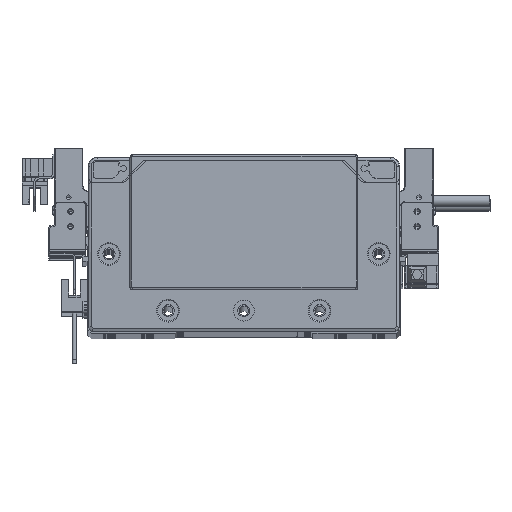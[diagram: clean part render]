
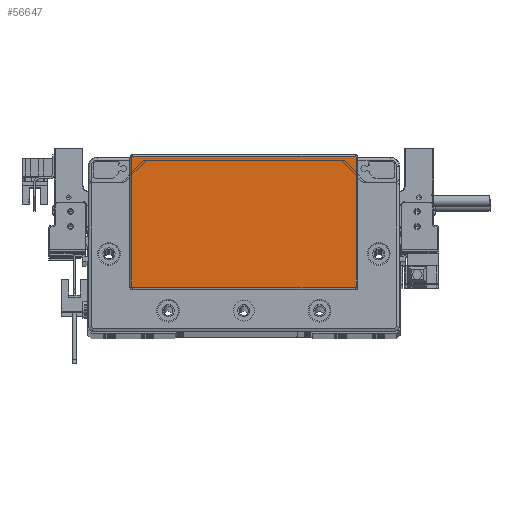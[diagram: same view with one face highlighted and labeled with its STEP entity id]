
A CAD part, top view. The second image highlights one B-rep face of the part: STEP entity #56647.
In plain terms, the highlighted planar face has unit normal (0, 0, 1) as drawn and (0, 0, -1) by its records, which use the part's own axes.
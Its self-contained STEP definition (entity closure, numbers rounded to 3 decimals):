
#776 = DIRECTION ( 'NONE',  ( 0., -1., 0. ) ) ;
#1093 = VERTEX_POINT ( 'NONE', #9725 ) ;
#1941 = EDGE_CURVE ( 'NONE', #14049, #1093, #17445, .T. ) ;
#2546 = ORIENTED_EDGE ( 'NONE', *, *, #30444, .T. ) ;
#7724 = ORIENTED_EDGE ( 'NONE', *, *, #41080, .T. ) ;
#8181 = ORIENTED_EDGE ( 'NONE', *, *, #101965, .T. ) ;
#9725 = CARTESIAN_POINT ( 'NONE',  ( 58.75, -23.8, -2. ) ) ;
#10487 = LINE ( 'NONE', #79188, #74043 ) ;
#10728 = CARTESIAN_POINT ( 'NONE',  ( 59.25, -23.3, -2. ) ) ;
#11864 = DIRECTION ( 'NONE',  ( -1., 0., 0. ) ) ;
#13423 = AXIS2_PLACEMENT_3D ( 'NONE', #23816, #58687, #70129 ) ;
#14049 = VERTEX_POINT ( 'NONE', #10728 ) ;
#17445 = CIRCLE ( 'NONE', #21120, 0.5 ) ;
#17501 = VECTOR ( 'NONE', #11864, 1000. ) ;
#19542 = AXIS2_PLACEMENT_3D ( 'NONE', #48280, #32289, #100424 ) ;
#19639 = DIRECTION ( 'NONE',  ( -1., 0., 0. ) ) ;
#21120 = AXIS2_PLACEMENT_3D ( 'NONE', #83059, #30434, #29880 ) ;
#21761 = VECTOR ( 'NONE', #81898, 1000. ) ;
#23727 = EDGE_CURVE ( 'NONE', #93894, #100034, #71923, .T. ) ;
#23816 = CARTESIAN_POINT ( 'NONE',  ( 58.75, 45.3, -2. ) ) ;
#27050 = DIRECTION ( 'NONE',  ( -1., 0., 0. ) ) ;
#27915 = LINE ( 'NONE', #65073, #17501 ) ;
#29880 = DIRECTION ( 'NONE',  ( -1., 0., 0. ) ) ;
#30434 = DIRECTION ( 'NONE',  ( 0., 0., -1. ) ) ;
#30444 = EDGE_CURVE ( 'NONE', #110589, #88194, #80765, .T. ) ;
#32289 = DIRECTION ( 'NONE',  ( 0., 0., -1. ) ) ;
#32570 = CARTESIAN_POINT ( 'NONE',  ( 58.75, 45.8, -2. ) ) ;
#36250 = CARTESIAN_POINT ( 'NONE',  ( -58.75, -23.8, -2. ) ) ;
#41080 = EDGE_CURVE ( 'NONE', #100034, #14049, #10487, .T. ) ;
#41151 = ORIENTED_EDGE ( 'NONE', *, *, #54734, .T. ) ;
#44675 = CARTESIAN_POINT ( 'NONE',  ( -59.25, 45.3, -2. ) ) ;
#45946 = CIRCLE ( 'NONE', #106250, 0.5 ) ;
#48280 = CARTESIAN_POINT ( 'NONE',  ( -58.75, 45.3, -2. ) ) ;
#48839 = CARTESIAN_POINT ( 'NONE',  ( 58.75, 45.8, -2. ) ) ;
#54734 = EDGE_CURVE ( 'NONE', #1093, #77532, #27915, .T. ) ;
#56647 = ADVANCED_FACE ( 'NONE', ( #63117 ), #80880, .T. ) ;
#57898 = ORIENTED_EDGE ( 'NONE', *, *, #60855, .T. ) ;
#58687 = DIRECTION ( 'NONE',  ( 0., 0., -1. ) ) ;
#59697 = CIRCLE ( 'NONE', #19542, 0.5 ) ;
#60855 = EDGE_CURVE ( 'NONE', #88194, #75995, #59697, .T. ) ;
#63117 = FACE_OUTER_BOUND ( 'NONE', #73155, .T. ) ;
#65073 = CARTESIAN_POINT ( 'NONE',  ( -58.75, -23.8, -2. ) ) ;
#70129 = DIRECTION ( 'NONE',  ( -1., 0., 0. ) ) ;
#71923 = CIRCLE ( 'NONE', #13423, 0.5 ) ;
#73155 = EDGE_LOOP ( 'NONE', ( #7724, #88422, #41151, #8181, #2546, #57898, #76196, #111378 ) ) ;
#74043 = VECTOR ( 'NONE', #776, 1000. ) ;
#75995 = VERTEX_POINT ( 'NONE', #97014 ) ;
#76196 = ORIENTED_EDGE ( 'NONE', *, *, #82258, .T. ) ;
#77532 = VERTEX_POINT ( 'NONE', #36250 ) ;
#79188 = CARTESIAN_POINT ( 'NONE',  ( 59.25, -23.3, -2. ) ) ;
#80765 = LINE ( 'NONE', #44675, #21761 ) ;
#80880 = PLANE ( 'NONE',  #96384 ) ;
#81898 = DIRECTION ( 'NONE',  ( 0., 1., 0. ) ) ;
#82258 = EDGE_CURVE ( 'NONE', #75995, #93894, #101815, .T. ) ;
#83059 = CARTESIAN_POINT ( 'NONE',  ( 58.75, -23.3, -2. ) ) ;
#84590 = CARTESIAN_POINT ( 'NONE',  ( -59.25, -23.3, -2. ) ) ;
#87149 = DIRECTION ( 'NONE',  ( 0., 0., -1. ) ) ;
#88194 = VERTEX_POINT ( 'NONE', #108890 ) ;
#88422 = ORIENTED_EDGE ( 'NONE', *, *, #1941, .T. ) ;
#93894 = VERTEX_POINT ( 'NONE', #48839 ) ;
#96384 = AXIS2_PLACEMENT_3D ( 'NONE', #108287, #107737, #19639 ) ;
#96782 = CARTESIAN_POINT ( 'NONE',  ( 59.25, 45.3, -2. ) ) ;
#97014 = CARTESIAN_POINT ( 'NONE',  ( -58.75, 45.8, -2. ) ) ;
#97952 = VECTOR ( 'NONE', #111489, 1000. ) ;
#100034 = VERTEX_POINT ( 'NONE', #96782 ) ;
#100424 = DIRECTION ( 'NONE',  ( -1., 0., 0. ) ) ;
#101815 = LINE ( 'NONE', #32570, #97952 ) ;
#101965 = EDGE_CURVE ( 'NONE', #77532, #110589, #45946, .T. ) ;
#105415 = CARTESIAN_POINT ( 'NONE',  ( -58.75, -23.3, -2. ) ) ;
#106250 = AXIS2_PLACEMENT_3D ( 'NONE', #105415, #87149, #27050 ) ;
#107737 = DIRECTION ( 'NONE',  ( 0., 0., -1. ) ) ;
#108287 = CARTESIAN_POINT ( 'NONE',  ( 0., 0., -2. ) ) ;
#108890 = CARTESIAN_POINT ( 'NONE',  ( -59.25, 45.3, -2. ) ) ;
#110589 = VERTEX_POINT ( 'NONE', #84590 ) ;
#111378 = ORIENTED_EDGE ( 'NONE', *, *, #23727, .T. ) ;
#111489 = DIRECTION ( 'NONE',  ( 1., 0., 0. ) ) ;
